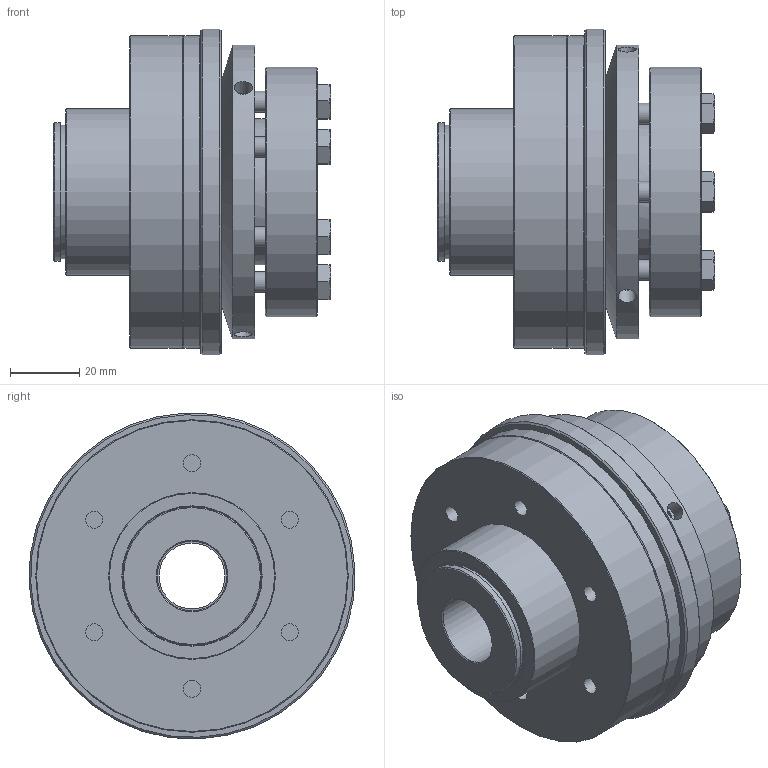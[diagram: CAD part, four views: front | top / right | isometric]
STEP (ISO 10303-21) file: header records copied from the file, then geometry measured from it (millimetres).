
FILE_DESCRIPTION( ( 'Unknown' ), '1' );
FILE_NAME( 'C:/Users/TWalzel/Documents/CAD-Daten/KBK-CA/150/KBK C-A-150.stp', 'Unknown', ( 'Unknown' ), ( 'Unknown' ), 'PSStep 16.0.42', 'Unknown', ' ' );
FILE_SCHEMA( ( 'AUTOMOTIVE_DESIGN { 1 0 10303 214 1 1 1 1 }' ) );
Length unit declared in the file: millimetre
Products named in the file (11): Druckring L-A-80_0; Stellring 80_0; Druckring 80_0; din_en_24017_m6x25_1; Assem1; Grundkörper C-A-80_1; Flansch-Gleitlager CK-80
Assembly tree (15 placements, depth 3):
  Assem1
    Grundkörper C-A-80_1
    Flansch-Gleitlager CK-80
    Stellring 80_0
      Stellring 80_0
    Druckring 80_0
      Druckring 80_0
    Druckring L-A-80_0
      Druckring L-A-80_0
    din_en_24017_m6x25_1  x6
      din_en_24017_m6x25_1
Bounding box: 79.85 x 93.92 x 93.92 mm (x, y, z)
Volume: 286514.5 mm3; surface area: 88394 mm2
Topology: 11 solids, 11 shells, 267 faces, 560 edges, 356 vertices
Faces by surface type: plane 117, cone 79, cylinder 63, torus 8
Full cylindrical faces by diameter (mm): 3.242 x3, 4.917 x18, 5 x4, 5.2 x3, 6 x6, 6.6 x6, 8.8 x6, 19 x1, 20 x1, 38.5 x1, 40 x3, 42.29 x1, 48 x1, 62 x2, 70 x1, 72 x1, 85 x1, 87 x1, 90 x2, 94 x1
Entity records: 5530 total; most frequent: CARTESIAN_POINT 1021, DIRECTION 708, ORIENTED_EDGE 442, AXIS2_PLACEMENT_3D 336, EDGE_LOOP 294, EDGE_CURVE 221, FACE_OUTER_BOUND 213, VERTEX_POINT 185
